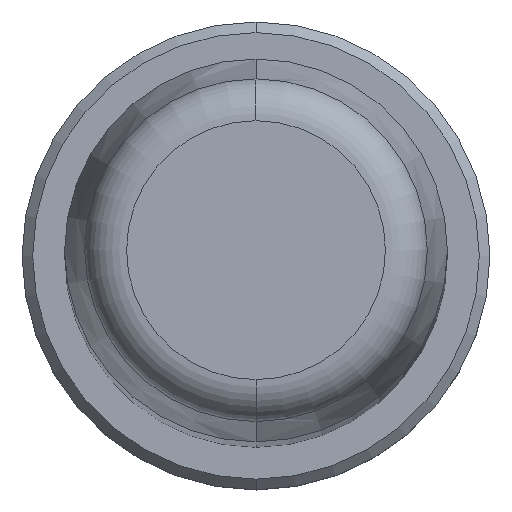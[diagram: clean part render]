
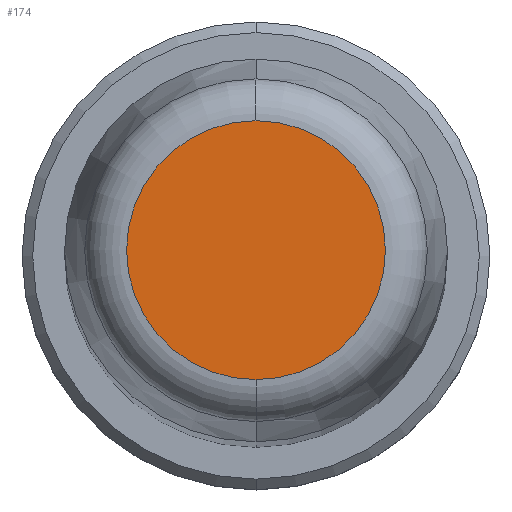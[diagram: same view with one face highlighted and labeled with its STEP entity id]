
A CAD part, top view. The second image highlights one B-rep face of the part: STEP entity #174.
In plain terms, the highlighted planar face has unit normal (0, 0, 1).
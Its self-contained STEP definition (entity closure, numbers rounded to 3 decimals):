
#1=CARTESIAN_POINT('',(0.,0.,160.));
#2=DIRECTION('',(0.,0.,-1.));
#3=DIRECTION('',(0.,-1.,0.));
#4=AXIS2_PLACEMENT_3D('',#1,#2,#3);
#6=CARTESIAN_POINT('',(0.,0.,160.));
#7=DIRECTION('',(0.,0.,-1.));
#8=DIRECTION('',(0.,1.,0.));
#9=AXIS2_PLACEMENT_3D('',#6,#7,#8);
#159=CARTESIAN_POINT('',(0.,-6.088,160.));
#160=CARTESIAN_POINT('',(0.,6.088,160.));
#161=VERTEX_POINT('',#159);
#162=VERTEX_POINT('',#160);
#163=CARTESIAN_POINT('',(0.,0.,160.));
#164=DIRECTION('',(0.,0.,1.));
#165=DIRECTION('',(0.,-1.,0.));
#166=AXIS2_PLACEMENT_3D('',#163,#164,#165);
#167=PLANE('',#166);
#169=ORIENTED_EDGE('',*,*,#168,.T.);
#171=ORIENTED_EDGE('',*,*,#170,.T.);
#172=EDGE_LOOP('',(#169,#171));
#173=FACE_OUTER_BOUND('',#172,.F.);
#174=ADVANCED_FACE('',(#173),#167,.T.);
#5=CIRCLE('',#4,6.088);
#10=CIRCLE('',#9,6.088);
#168=EDGE_CURVE('',#161,#162,#5,.T.);
#170=EDGE_CURVE('',#162,#161,#10,.T.);
